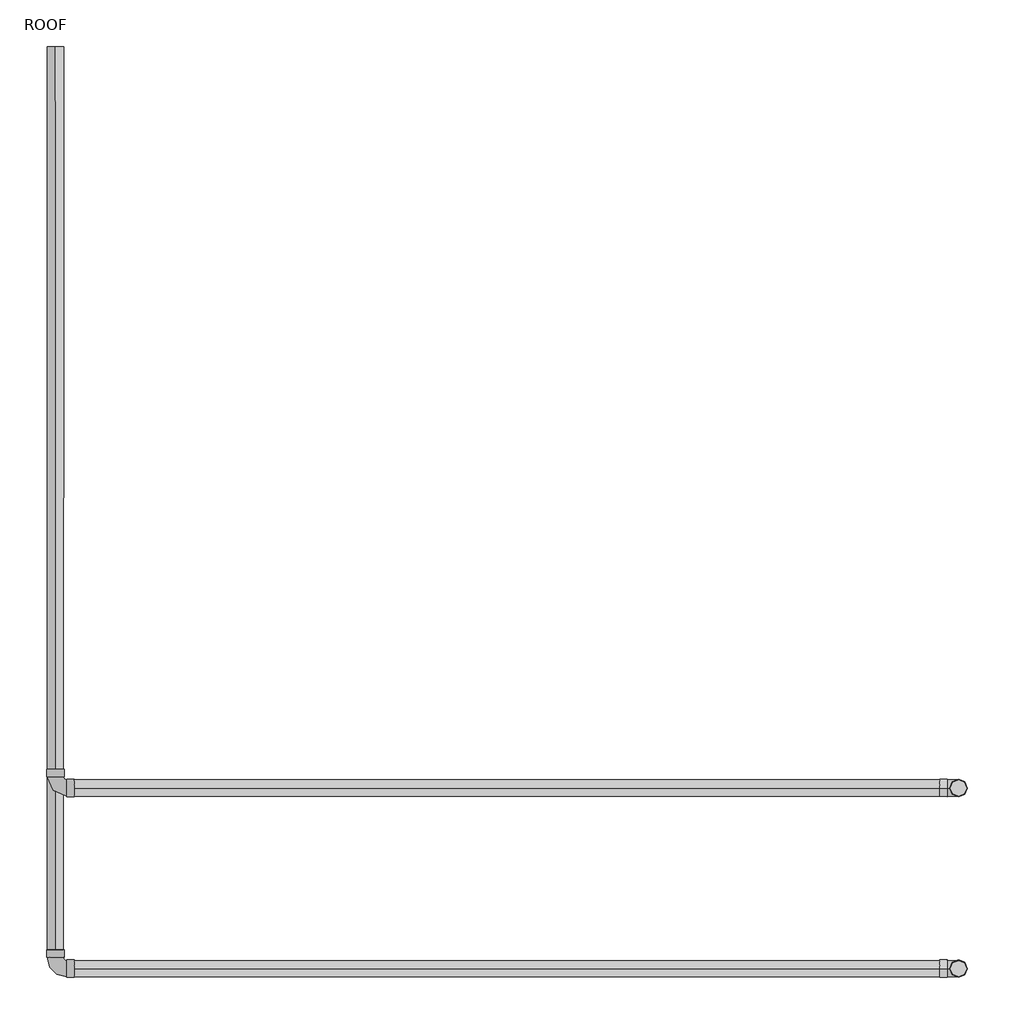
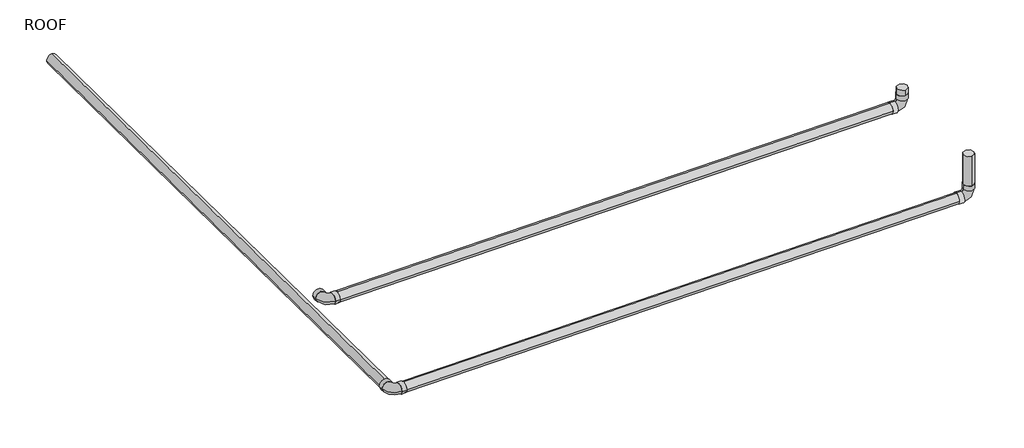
# One storey, incomplete: 5 pipe segments, 4 pipe fittings.
"""IFC4 building model written with IfcOpenShell, lengths in millimetres."""

from ifc_helpers import new_model, si_unit, point, frame, frame_2d, origin, place, context, project, spatial, circle_curve, trimmed, segment, composite_curve, outline, extrude, transform, mapped, element, save
from components import bend_pvc_sch_40_dwv_standard_c085084d, bend_pvc_sch_40_dwv_standard_a8b4d0eb, bend_pvc_sch_40_dwv_standard_0d5fb2e9

model = new_model("IFC4")

# Units and contexts
model_context = context("Model", 3, world=origin())
ifc_project = project(units=[si_unit("LENGTHUNIT", "METRE", prefix="MILLI")], contexts=[model_context])

# Site, building, storey
site = spatial("IfcSite", under=ifc_project)
building = spatial("IfcBuilding", under=site)
storey = spatial("IfcBuildingStorey", under=building, Name="ROOF", Elevation=18288.0)

# Pipe fittings
placement = place(None, origin())
bend_pvc_sch_40_dwv_standard_shape = bend_pvc_sch_40_dwv_standard_c085084d(model_context)
element("IfcPipeFitting", 1, ObjectType="Bend - PVC - Sch 40 - DWV : Standard", at=placement, inside=storey, context=model_context, shape_type="MappedRepresentation", body=[
    mapped(bend_pvc_sch_40_dwv_standard_shape, transform((-4617.2660279, -1286.6101681, 17785.102388), x_axis=(0.0, 0.0, -1.0), y_axis=(-1.0, 0.0, 0.0), z_axis=(0.0, 1.0, 0.0))),
])
element("IfcPipeFitting", 2, ObjectType="Bend - PVC - Sch 40 - DWV : Standard", at=placement, inside=storey, context=model_context, shape_type="MappedRepresentation", body=[
    mapped(bend_pvc_sch_40_dwv_standard_shape, transform((-4617.2660279, -3725.0101681, 17251.702388), x_axis=(0.0, 0.0, -1.0), y_axis=(-1.0, 0.0, 0.0), z_axis=(0.0, 1.0, 0.0))),
])
bend_pvc_sch_40_dwv_standard_2_shape = bend_pvc_sch_40_dwv_standard_a8b4d0eb(model_context)
element("IfcPipeFitting", 3, ObjectType="Bend - PVC - Sch 40 - DWV : Standard", at=placement, inside=storey, context=model_context, shape_type="MappedRepresentation", body=[
    mapped(bend_pvc_sch_40_dwv_standard_2_shape, transform((-16807.3735977, -1286.6101681, 17658.1221008), x_axis=(0.0, -0.9999457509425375, 0.010416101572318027), y_axis=(0.9999457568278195, 0.00010848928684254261, 0.010414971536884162), z_axis=(-0.010415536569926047, 0.01041553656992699, 0.9998915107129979))),
])
bend_pvc_sch_40_dwv_standard_3_shape = bend_pvc_sch_40_dwv_standard_0d5fb2e9(model_context)
element("IfcPipeFitting", 4, ObjectType="Bend - PVC - Sch 40 - DWV : Standard", at=placement, inside=storey, context=model_context, shape_type="MappedRepresentation", body=[
    mapped(bend_pvc_sch_40_dwv_standard_3_shape, transform((-16809.3054513, -3725.0101681, 17124.7019773), x_axis=(-0.00015521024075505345, -0.9999457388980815, 0.01041610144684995), y_axis=(0.9999457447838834, -4.670411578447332e-05, 0.010416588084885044), z_axis=(-0.01041553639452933, 0.01041715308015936, 0.9998914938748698))),
])

# Pipe segments
element("IfcPipeSegment", 5, ObjectType="PVC - DWV", at=placement, inside=storey, context=model_context, shape_type="SweptSolid", body=[
    extrude(outline(composite_curve([segment(trimmed(circle_curve(frame_2d((-4617.2660279, -1286.6101681)), 109.5375), [point((-4507.7285279, -1286.6101681))], [point((-4617.2660279, -1396.1476681))], False, "CARTESIAN"), True, "CONTINUOUS"), segment(trimmed(circle_curve(frame_2d((-4617.2660279, -1286.6101681)), 109.5375), [point((-4617.2660279, -1396.1476681))], [point((-4726.8035279, -1286.6101681))], False, "CARTESIAN"), True, "CONTINUOUS"), segment(trimmed(circle_curve(frame_2d((-4617.2660279, -1286.6101681)), 109.5375), [point((-4726.8035279, -1286.6101681))], [point((-4617.2660279, -1177.0726681))], False, "CARTESIAN"), True, "CONTINUOUS"), segment(trimmed(circle_curve(frame_2d((-4617.2660279, -1286.6101681)), 109.5375), [point((-4617.2660279, -1177.0726681))], [point((-4507.7285279, -1286.6101681))], False, "CARTESIAN"), True, "CONTINUOUS")], self_intersect=False)), frame((0.0, 0.0, 18039.102388), z_axis=(0.0, 0.0, 1.0), x_axis=(1.0, 0.0, 0.0)), (0.0, 0.0, 1.0), 127.0),
])
element("IfcPipeSegment", 6, ObjectType="PVC - DWV", at=placement, inside=storey, context=model_context, shape_type="SweptSolid", body=[
    extrude(outline(composite_curve([segment(trimmed(circle_curve(frame_2d((0.0, -109.5375)), 109.5375), [point((0.0, 0.0))], [point((109.5375, -109.5375))], False, "CARTESIAN"), True, "CONTINUOUS"), segment(trimmed(circle_curve(frame_2d((0.0, -109.5375)), 109.5375), [point((109.5375, -109.5375))], [point((0.0, -219.075))], False, "CARTESIAN"), True, "CONTINUOUS"), segment(trimmed(circle_curve(frame_2d((0.0, -109.5375)), 109.5375), [point((0.0, -219.075))], [point((-109.5375, -109.5375))], False, "CARTESIAN"), True, "CONTINUOUS"), segment(trimmed(circle_curve(frame_2d((0.0, -109.5375)), 109.5375), [point((-109.5375, -109.5375))], [point((0.0, 0.0))], False, "CARTESIAN"), True, "CONTINUOUS")], self_intersect=False)), frame((-16553.3873769, -1177.0726681, 17660.7677906), z_axis=(0.9999457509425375, 0.0, 0.010416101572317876), x_axis=(0.010416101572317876, 0.0, -0.9999457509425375)), (0.0, 0.0, 1.0), 11682.7689075),
])
element("IfcPipeSegment", 7, ObjectType="PVC - DWV", at=placement, inside=storey, context=model_context, shape_type="SweptSolid", body=[
    extrude(outline(composite_curve([segment(trimmed(circle_curve(frame_2d((-4617.2660279, -3725.0101681)), 109.5375), [point((-4507.7285279, -3725.0101681))], [point((-4617.2660279, -3834.5476681))], False, "CARTESIAN"), True, "CONTINUOUS"), segment(trimmed(circle_curve(frame_2d((-4617.2660279, -3725.0101681)), 109.5375), [point((-4617.2660279, -3834.5476681))], [point((-4726.8035279, -3725.0101681))], False, "CARTESIAN"), True, "CONTINUOUS"), segment(trimmed(circle_curve(frame_2d((-4617.2660279, -3725.0101681)), 109.5375), [point((-4726.8035279, -3725.0101681))], [point((-4617.2660279, -3615.4726681))], False, "CARTESIAN"), True, "CONTINUOUS"), segment(trimmed(circle_curve(frame_2d((-4617.2660279, -3725.0101681)), 109.5375), [point((-4617.2660279, -3615.4726681))], [point((-4507.7285279, -3725.0101681))], False, "CARTESIAN"), True, "CONTINUOUS")], self_intersect=False)), frame((0.0, 0.0, 17505.702388), z_axis=(0.0, 0.0, 1.0), x_axis=(1.0, 0.0, 0.0)), (0.0, 0.0, 1.0), 660.4),
])
element("IfcPipeSegment", 8, ObjectType="PVC - DWV", at=placement, inside=storey, context=model_context, shape_type="SweptSolid", body=[
    extrude(outline(composite_curve([segment(trimmed(circle_curve(frame_2d((0.0, -109.5375)), 109.5375), [point((0.0, 0.0))], [point((109.5375, -109.5375))], False, "CARTESIAN"), True, "CONTINUOUS"), segment(trimmed(circle_curve(frame_2d((0.0, -109.5375)), 109.5375), [point((109.5375, -109.5375))], [point((0.0, -219.075))], False, "CARTESIAN"), True, "CONTINUOUS"), segment(trimmed(circle_curve(frame_2d((0.0, -109.5375)), 109.5375), [point((0.0, -219.075))], [point((-109.5375, -109.5375))], False, "CARTESIAN"), True, "CONTINUOUS"), segment(trimmed(circle_curve(frame_2d((0.0, -109.5375)), 109.5375), [point((-109.5375, -109.5375))], [point((0.0, 0.0))], False, "CARTESIAN"), True, "CONTINUOUS")], self_intersect=False)), frame((-16555.3192306, -3615.4726681, 17127.3476671), z_axis=(0.9999457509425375, 0.0, 0.010416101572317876), x_axis=(0.010416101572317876, 0.0, -0.9999457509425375)), (0.0, 0.0, 1.0), 11684.7008659),
])
element("IfcPipeSegment", 9, ObjectType="PVC - DWV", at=placement, inside=storey, context=model_context, shape_type="SweptSolid", body=[
    extrude(outline(composite_curve([segment(trimmed(circle_curve(frame_2d((0.0, 109.5375)), 109.5375), [point((-109.5375, 109.5376771))], [point((0.0001771, 219.0749999))], False, "CARTESIAN"), True, "CONTINUOUS"), segment(trimmed(circle_curve(frame_2d((0.0, 109.5375)), 109.5375), [point((0.0001771, 219.0749999))], [point((109.5375, 109.5373229))], False, "CARTESIAN"), True, "CONTINUOUS"), segment(trimmed(circle_curve(frame_2d((0.0, 109.5375)), 109.5375), [point((109.5375, 109.5373229))], [point((-0.0001771, 0.0))], False, "CARTESIAN"), True, "CONTINUOUS"), segment(trimmed(circle_curve(frame_2d((0.0, 109.5375)), 109.5375), [point((-0.0001771, 0.0))], [point((-109.5375, 109.5376771))], False, "CARTESIAN"), True, "CONTINUOUS")], self_intersect=False)), frame((-16807.3735977, 8719.8626612, 16885.5248534), z_axis=(-0.00015521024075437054, -0.9999457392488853, 0.010416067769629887), x_axis=(0.9999999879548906, -0.00015520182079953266, 1.6166804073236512e-06)), (0.0, 0.0, 1.0), 12192.6891461),
])

save(model, "model.ifc")
